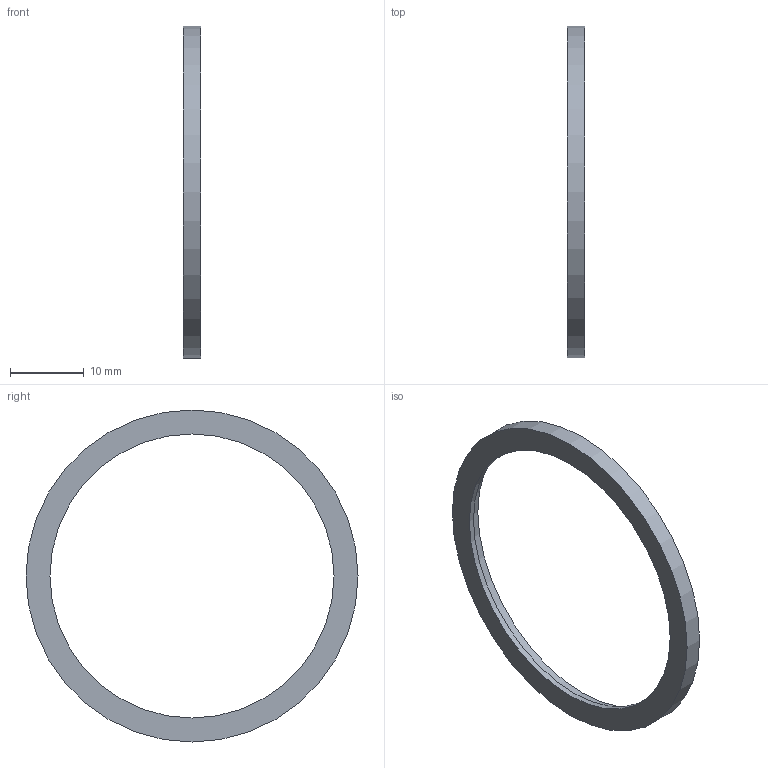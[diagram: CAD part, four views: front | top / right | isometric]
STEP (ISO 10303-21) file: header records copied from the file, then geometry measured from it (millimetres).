
FILE_DESCRIPTION(('Open CASCADE Model'),'2;1');
FILE_NAME('Open CASCADE Shape Model','2026-10-24T14:13:33',('Author'),( 'Open CASCADE'),'Open CASCADE STEP processor 7.9','Open CASCADE 7.9' ,'Unknown');
FILE_SCHEMA(('AUTOMOTIVE_DESIGN { 1 0 10303 214 1 1 1 1 }'));
Length unit declared in the file: millimetre
Products named in the file (1): Open CASCADE STEP translator 7.9 4
Bounding box: 2.4 x 45 x 45 mm (x, y, z)
Volume: 870.1 mm3; surface area: 1489.9 mm2
Topology: 1 solids, 1 shells, 6 faces, 9 edges, 6 vertices
Faces by surface type: plane 3, cylinder 3
Full cylindrical faces by diameter (mm): 38.5 x1, 40.05 x1, 45 x1
Entity records: 270 total; most frequent: DIRECTION 47, CARTESIAN_POINT 40, ORIENTED_EDGE 18, PCURVE 18, DEFINITIONAL_REPRESENTATION 18, LINE 15, VECTOR 15, AXIS2_PLACEMENT_3D 13
